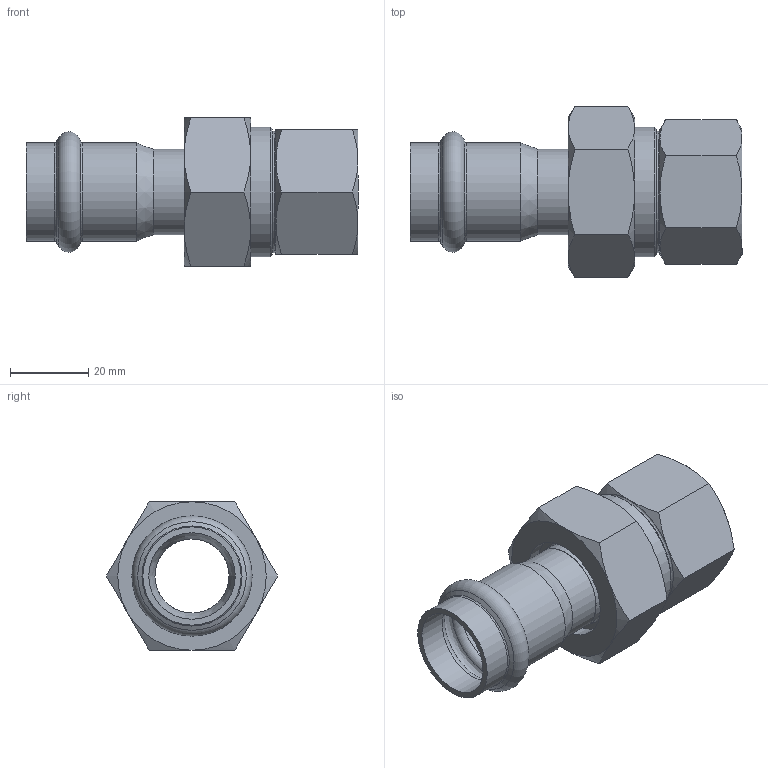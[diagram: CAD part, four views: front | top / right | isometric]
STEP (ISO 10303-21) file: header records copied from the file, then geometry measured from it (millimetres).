
FILE_DESCRIPTION((''),'2;1');
FILE_NAME('G:\Nirosan-Schmiedefeld\Technics\CAD\Bauteile VA\022\69330G2234(3).stp','2011-06-28T14:25:19',('herberg'),(''),'Autodesk Inventor 2009','Autodesk Inventor 2009','');
FILE_SCHEMA(('AUTOMOTIVE_DESIGN { 1 0 10303 214 1 1 1 1 }'));
Length unit declared in the file: millimetre
Products named in the file (7): 69330G2234(3); 69359mms221(1); HM_6924322(1); R221(0); FD_3021_EPDM(0); MS_SM221(2); 69370G134(1)
Assembly tree (6 placements, depth 3):
  69330G2234(3)
    69359mms221(1)
      HM_6924322(1)
      R221(0)
      FD_3021_EPDM(0)
      MS_SM221(2)
    69370G134(1)
Bounding box: 85 x 43.88 x 38 mm (x, y, z)
Volume: 32065.3 mm3; surface area: 21866.2 mm2
Topology: 5 solids, 5 shells, 84 faces, 166 edges, 96 vertices
Faces by surface type: cone 33, plane 24, cylinder 13, bspline 11, torus 3
Full cylindrical faces by diameter (mm): 19 x2, 21 x1, 22 x2, 22.15 x2, 25.15 x2, 29 x1, 30 x1, 31 x1, 33.249 x1
Entity records: 2419 total; most frequent: CARTESIAN_POINT 747, DIRECTION 324, ORIENTED_EDGE 260, AXIS2_PLACEMENT_3D 156, EDGE_LOOP 132, EDGE_CURVE 130, VERTEX_POINT 94, FACE_OUTER_BOUND 84
